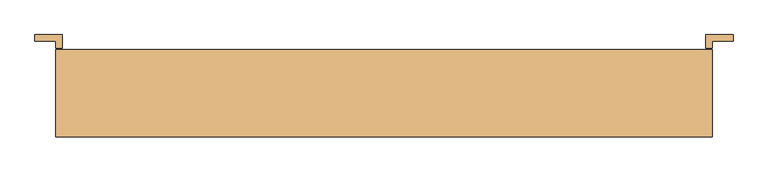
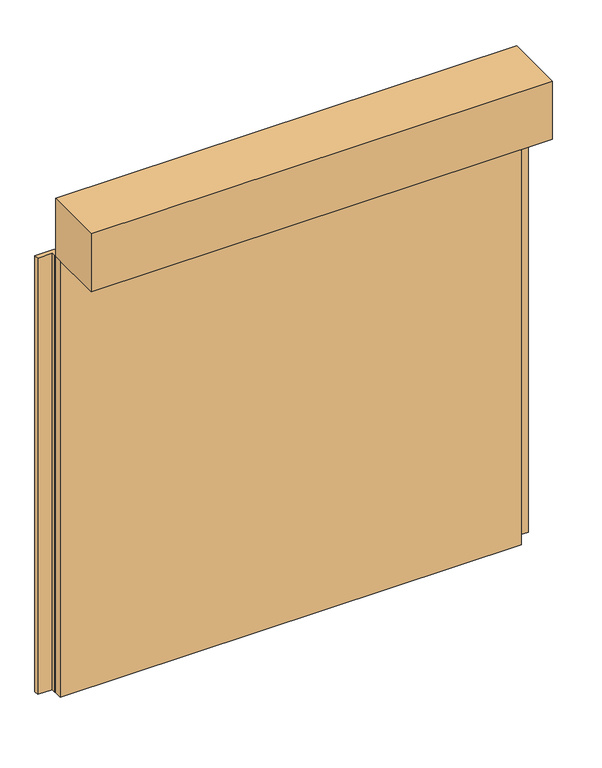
"""IFC4 building model written with IfcOpenShell, lengths in millimetres: door geometry, Rollershutter : 3000(w) x 3000(h)."""

from ifc_helpers import new_model, si_unit, frame, origin, origin_with_axes, place, context, project, spatial, polyline, outline, extrude, source, transform, mapped, element, save


def door_a911d68e(model_context):
    return source(origin(), model_context, "Body", "SweptSolid", [
        extrude(outline(polyline([(1100.0, -19.0), (1100.0, -70.0), (-1900.0, -70.0), (-1900.0, -19.0), (1100.0, -19.0)])), origin_with_axes(), (0.0, 0.0, 1.0), 3000.0),
        extrude(outline(polyline([(-1995.0, 49.0), (-1870.0, 49.0), (-1870.0, -10.8), (-1900.0, -10.8), (-1900.0, 19.0), (-1995.0, 19.0), (-1995.0, 49.0)])), origin_with_axes(), (0.0, 0.0, 1.0), 3000.0),
        extrude(outline(polyline([(1195.0, 49.0), (1195.0, 19.0), (1100.0, 19.0), (1100.0, -10.8), (1070.0, -10.8), (1070.0, 49.0), (1195.0, 49.0)])), origin_with_axes(), (0.0, 0.0, 1.0), 3000.0),
        extrude(outline(polyline([(-1900.0, -419.0), (-1900.0, -19.0), (1100.0, -19.0), (1100.0, -419.0), (-1900.0, -419.0)])), frame((0.0, 0.0, 3000.0), z_axis=(0.0, 0.0, 1.0), x_axis=(1.0, 0.0, 0.0)), (0.0, 0.0, 1.0), 400.0),
    ])


if __name__ == "__main__":
    model = new_model("IFC4")
    model_context = context("Model", 3, world=origin())
    ifc_project = project(units=[si_unit("LENGTHUNIT", "METRE", prefix="MILLI")], contexts=[model_context])
    site = spatial("IfcSite", under=ifc_project)
    building = spatial("IfcBuilding", under=site)
    placement = place(None, origin())
    door_shape = door_a911d68e(model_context)
    element("IfcDoor", 1, ObjectType="Rollershutter : 3000(w) x 3000(h)", at=placement, inside=building, context=model_context, shape_type="MappedRepresentation", body=[
        mapped(door_shape, transform((0.0, 0.0, 0.0), x_axis=(1.0, 0.0, 0.0), y_axis=(0.0, 1.0, 0.0), z_axis=(0.0, 0.0, 1.0))),
    ])
    save(model, "model.ifc")
